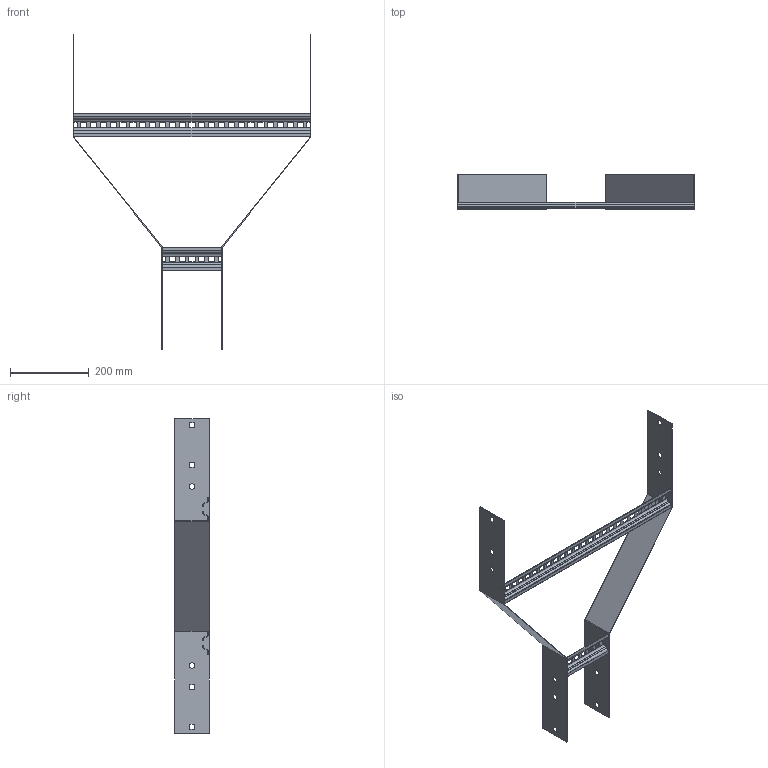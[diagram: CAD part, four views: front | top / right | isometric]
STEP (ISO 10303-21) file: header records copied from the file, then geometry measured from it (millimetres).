
FILE_DESCRIPTION (( 'STEP AP203' ), '1' );
FILE_NAME ('N2 SR600150.STEP', '2024-08-27T22:24:12', ( '' ), ( '' ), 'SwSTEP 2.0', 'SolidWorks 2023', '' );
FILE_SCHEMA (( 'CONFIG_CONTROL_DESIGN' ));
Length unit declared in the file: millimetre
Products named in the file (4): Ladder Rung_Ladder Rung -  150mm; N2 Reducer side plate_SR150x600; Ladder Rung_Ladder Rung -  600mm; N2 SR600150
Assembly tree (4 placements, depth 2):
  N2 SR600150
    N2 Reducer side plate_SR150x600  x2
    Ladder Rung_Ladder Rung -  150mm
    Ladder Rung_Ladder Rung -  600mm
Bounding box: 604 x 87 x 800 mm (x, y, z)
Volume: 382411.1 mm3; surface area: 416844.3 mm2
Topology: 4 solids, 4 shells, 288 faces, 744 edges, 464 vertices
Faces by surface type: plane 256, cylinder 32
Entity records: 7894 total; most frequent: CARTESIAN_POINT 1293, ORIENTED_EDGE 1280, DIRECTION 1194, EDGE_CURVE 640, VECTOR 592, LINE 592, VERTEX_POINT 400, EDGE_LOOP 314
